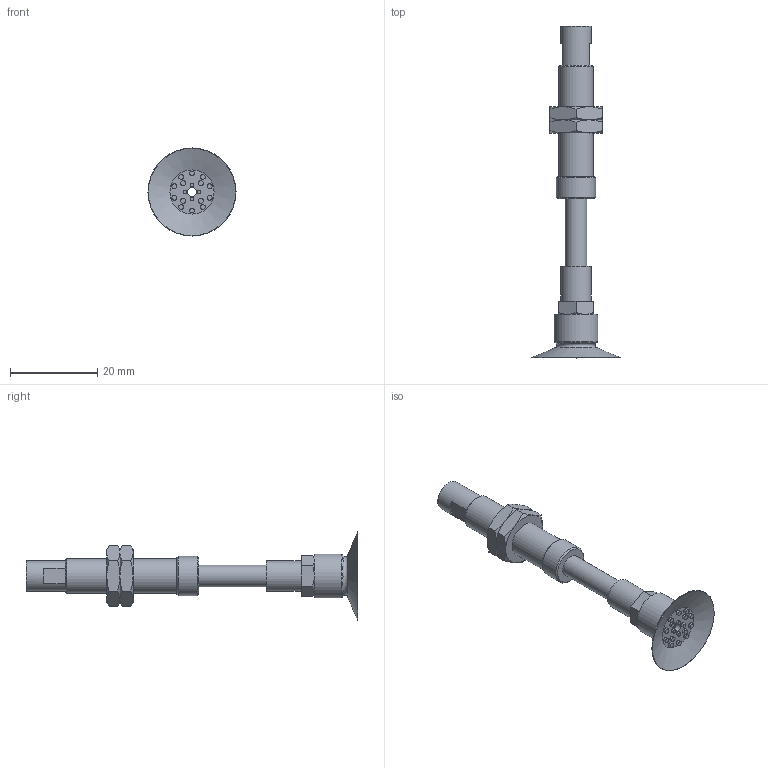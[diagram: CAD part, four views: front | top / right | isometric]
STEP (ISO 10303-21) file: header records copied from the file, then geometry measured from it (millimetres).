
FILE_DESCRIPTION(('STEP AP203'),'1');
FILE_NAME('-SPE.stp','2025-04-01T05:38:35',(' '),(' '),'Spatial InterOp 3D',' ',' ');
FILE_SCHEMA(('CONFIG_CONTROL_DESIGN'));
Length unit declared in the file: millimetre
Products named in the file (9): BNABPATS-20A-15-※-SPE; NUT; BODY; STOPPER; ZIG; TN-PS-10-M5; Setting screws-TN-PS-10-M5; BPAG-20A-※
Assembly tree (8 placements, depth 3):
  BNABPATS-20A-15-※-SPE
    NUT
    NUT
    BODY
    STOPPER
    ZIG
    TN-PS-10-M5
      Setting screws-TN-PS-10-M5
    BPAG-20A-※
Bounding box: 20.19 x 76 x 20.19 mm (x, y, z)
Volume: 3417.9 mm3; surface area: 5257.1 mm2
Topology: 7 solids, 7 shells, 180 faces, 354 edges, 219 vertices
Faces by surface type: plane 79, cone 48, cylinder 44, torus 9
Full cylindrical faces by diameter (mm): 0.9 x4, 1.1 x14, 2 x3, 3.4 x1, 3.5 x1, 3.9 x1, 4 x5, 4.2 x2, 5 x3, 5.2 x1, 6 x2, 7 x2, 7.25 x2, 8 x1, 9 x1, 10 x1
Entity records: 4652 total; most frequent: CARTESIAN_POINT 844, DIRECTION 738, ORIENTED_EDGE 534, AXIS2_PLACEMENT_3D 341, EDGE_LOOP 296, EDGE_CURVE 267, FACE_OUTER_BOUND 233, VERTEX_POINT 203
